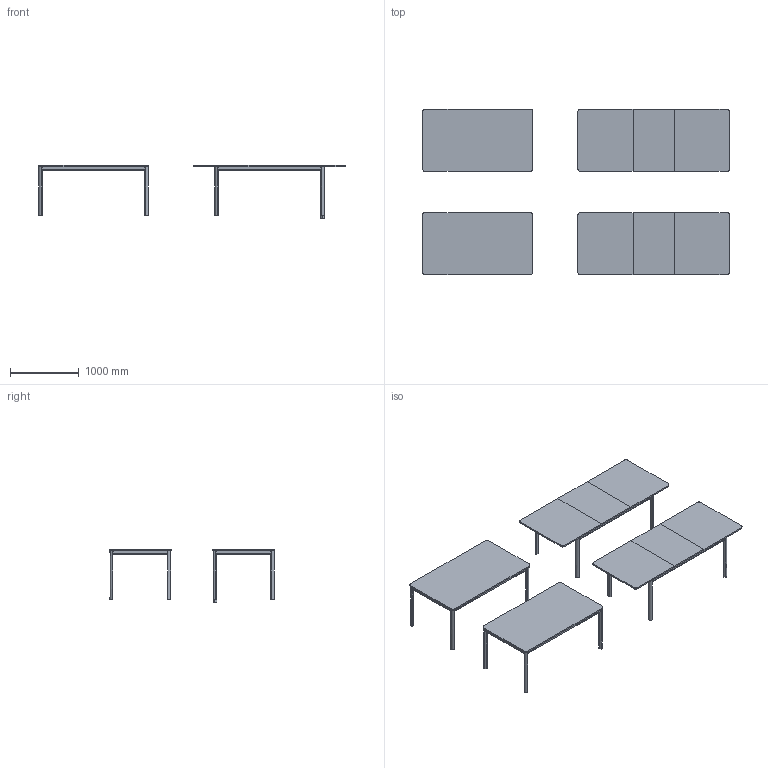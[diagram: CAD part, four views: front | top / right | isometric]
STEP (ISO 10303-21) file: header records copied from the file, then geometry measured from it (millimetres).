
FILE_DESCRIPTION(/* description */ (''),/* implementation_level */ '2;1');
FILE_NAME(/* name */ 'N8_160AZ_',/* time_stamp */ '2025-10-20T18:07:58+02:00',/* author */ (''),/* organization */ (''),/* preprocessor_version */ 'ST-DEVELOPER v16.5',/* originating_system */ 'Rhino 7.38',/* authorisation */ '');
FILE_SCHEMA (('AUTOMOTIVE_DESIGN_CC2'));
Length unit declared in the file: millimetre
Products named in the file (1): Document
Bounding box: 4455.03 x 2400 x 780.03 mm (x, y, z)
Volume: 192181394.3 mm3; surface area: 19128857.9 mm2
Topology: 56 solids, 56 shells, 692 faces, 1713 edges, 1133 vertices
Faces by surface type: bspline 692
Entity records: 47909 total; most frequent: CARTESIAN_POINT 24646, B_SPLINE_CURVE_WITH_KNOTS 4025, ORIENTED_EDGE 3224, PCURVE 3224, DEFINITIONAL_REPRESENTATION 3224, SURFACE_CURVE 1612, EDGE_CURVE 1612, VERTEX_POINT 1032
